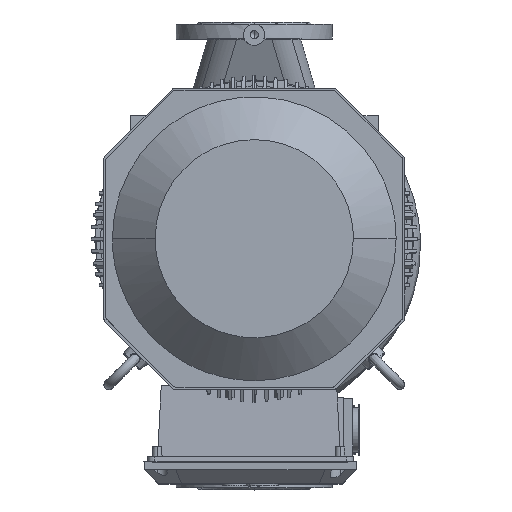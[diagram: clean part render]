
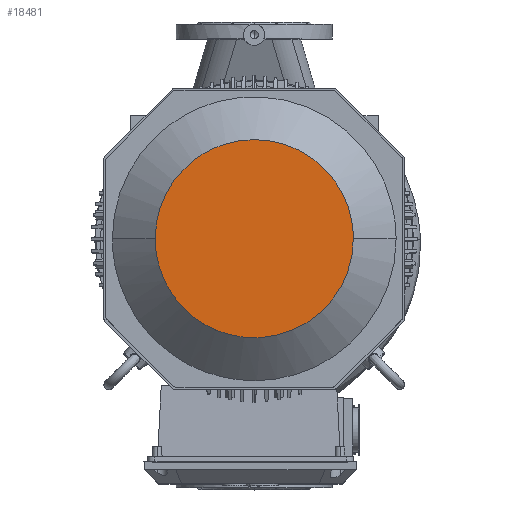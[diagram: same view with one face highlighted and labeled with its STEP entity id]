
A CAD part, top view. The second image highlights one B-rep face of the part: STEP entity #18481.
In plain terms, the highlighted free-form (B-spline) face has degree [1, 1] with [2, 2] control points.
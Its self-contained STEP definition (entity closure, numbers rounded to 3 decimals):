
#18481=ADVANCED_FACE('     F36',(#36346),#36347,.T.);
#18563=EDGE_CURVE('     E99',#36472,#36473,#36474,.T.);
#18567=EDGE_CURVE('     E99',#36473,#36472,#36478,.T.);
#36346=FACE_OUTER_BOUND('',#86723,.T.);
#36347=B_SPLINE_SURFACE_WITH_KNOTS('',1,1,((#86724,#86725),(#86726,#86727)),.UNSPECIFIED.,.F.,.F.,.F.,(2,2),(2,2),(0.044,0.955),(0.038,0.96),.UNSPECIFIED.);
#36472=VERTEX_POINT('',#87168);
#36473=VERTEX_POINT('',#87169);
#36474=(B_SPLINE_CURVE(2,(#87171,#87172,#87173,#87174,#87175),.UNSPECIFIED.,.F.,.F.)B_SPLINE_CURVE_WITH_KNOTS((3,2,3),(68.203,90.937,136.406),.UNSPECIFIED.)RATIONAL_B_SPLINE_CURVE((0.75,0.75,1.0,0.5,1.0))BOUNDED_CURVE()REPRESENTATION_ITEM('')GEOMETRIC_REPRESENTATION_ITEM()CURVE());
#36478=(B_SPLINE_CURVE(2,(#87189,#87190,#87191,#87192,#87193),.UNSPECIFIED.,.F.,.F.)B_SPLINE_CURVE_WITH_KNOTS((3,2,3),(0.0,45.469,68.203),.UNSPECIFIED.)RATIONAL_B_SPLINE_CURVE((1.0,0.5,1.0,0.75,0.75))BOUNDED_CURVE()REPRESENTATION_ITEM('')GEOMETRIC_REPRESENTATION_ITEM()CURVE());
#86723=EDGE_LOOP('',(#109969,#109970));
#86724=CARTESIAN_POINT('',(-344.319,136.863,-187.99));
#86725=CARTESIAN_POINT('',(-344.319,-143.766,-187.99));
#86726=CARTESIAN_POINT('',(-64.263,136.863,-187.99));
#86727=CARTESIAN_POINT('',(-64.263,-143.766,-187.99));
#87168=CARTESIAN_POINT('',(-343.849,-3.635,-187.99));
#87169=CARTESIAN_POINT('',(-64.273,-3.635,-187.99));
#87171=CARTESIAN_POINT('',(-343.849,-3.635,-187.99));
#87172=CARTESIAN_POINT('',(-343.849,-84.342,-187.99));
#87173=CARTESIAN_POINT('',(-273.955,-124.695,-187.99));
#87174=CARTESIAN_POINT('',(-64.273,-245.755,-187.99));
#87175=CARTESIAN_POINT('',(-64.273,-3.635,-187.99));
#87189=CARTESIAN_POINT('',(-64.273,-3.635,-187.99));
#87190=CARTESIAN_POINT('',(-64.273,238.485,-187.99));
#87191=CARTESIAN_POINT('',(-273.955,117.425,-187.99));
#87192=CARTESIAN_POINT('',(-343.849,77.072,-187.99));
#87193=CARTESIAN_POINT('',(-343.849,-3.635,-187.99));
#109969=ORIENTED_EDGE('',*,*,#18567,.F.);
#109970=ORIENTED_EDGE('',*,*,#18563,.F.);
